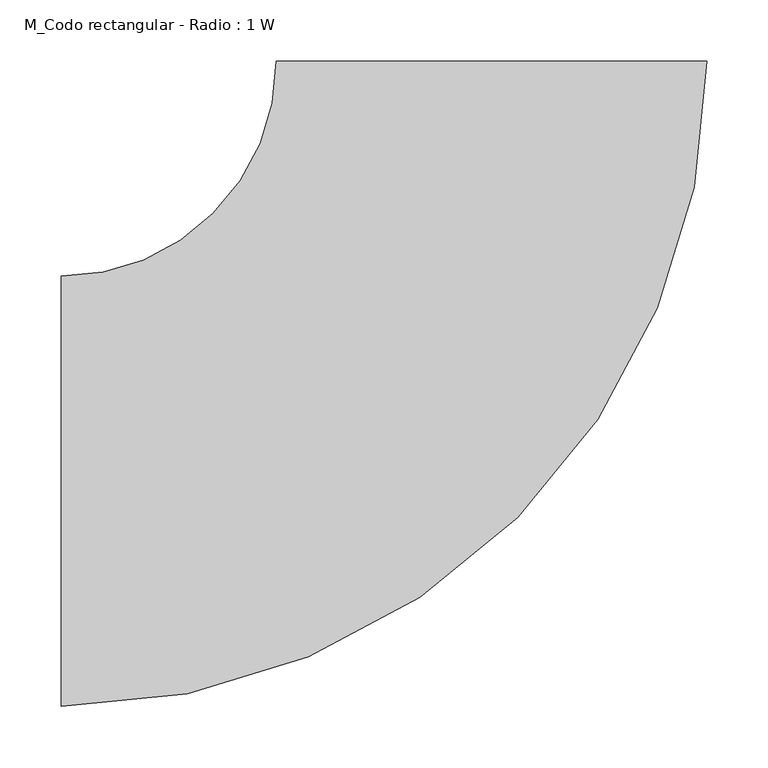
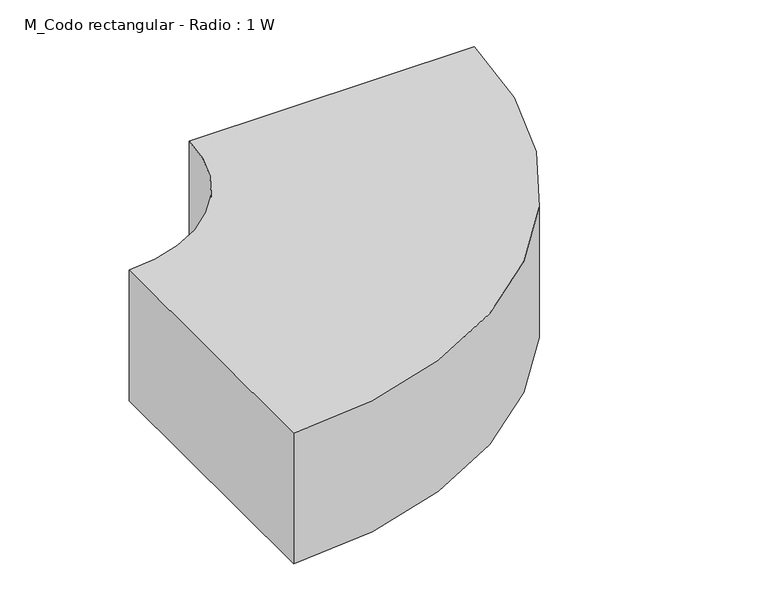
"""IFC4 building model written with IfcOpenShell, lengths in millimetres: duct fitting geometry, M_Codo rectangular - Radio : 1 W."""

import ifcopenshell
import ifcopenshell.guid

model = None  # the IFC model being written
_history = None  # IfcOwnerHistory: only IFC2X3 demands one
_inside = {}  # id of a spatial element -> (the spatial element, [elements in it])
_under = {}  # id of a project, library or spatial element -> (it, [spatial elements below it])
_declared = {}  # id of a project -> (the project, [libraries it declares])
_typed = {}  # id of a type object -> (the type object, [elements of that type])
_made_of = {}  # id of a material, layer set ... -> (it, [elements and type objects made of it])


def new_model(schema):
    """Start an empty IFC model of exactly this schema.

    Asked for "IFC4X3", IfcOpenShell would pick the latest addendum, in which some entities
    have other attributes; the version numbers below select the first issue.
    IFC2X3 requires an IfcOwnerHistory on every rooted entity: one is made here for all.
    """
    global model, _history
    if schema == "IFC4X3":
        model = ifcopenshell.file(schema_version=(4, 3, 0, 0))
    else:
        model = ifcopenshell.file(schema=schema)
    _inside.clear()
    _under.clear()
    _declared.clear()
    _typed.clear()
    _made_of.clear()
    _history = None
    if model.schema == "IFC2X3":
        org = make("IfcOrganization", Name="unknown")
        user = make(
            "IfcPersonAndOrganization",
            ThePerson=make("IfcPerson", FamilyName="unknown"),
            TheOrganization=org,
        )
        app = make(
            "IfcApplication",
            ApplicationDeveloper=org,
            Version="unknown",
            ApplicationFullName="unknown",
            ApplicationIdentifier="unknown",
        )
        _history = make(
            "IfcOwnerHistory",
            OwningUser=user,
            OwningApplication=app,
            ChangeAction="ADDED",
            CreationDate=0,
        )
    return model


def make(cls, **values):
    """One entity of the class cls with the attributes given. An attribute that is None is left unset."""
    return model.create_entity(
        cls, **{name: value for name, value in values.items() if value is not None}
    )


def rooted(cls, **values):
    """An entity with a GlobalId (a new one), such as an element, a storey or a relation."""
    return make(cls, GlobalId=ifcopenshell.guid.new(), OwnerHistory=_history, **values)


def si_unit(unit_type, name, prefix=None):
    """IfcSIUnit, for example si_unit("LENGTHUNIT", "METRE", prefix="MILLI")."""
    return make("IfcSIUnit", UnitType=unit_type, Prefix=prefix, Name=name)


def assignment(units):
    """IfcUnitAssignment: the units of a project."""
    return None if units is None else make("IfcUnitAssignment", Units=units)


def point(xyz):
    """IfcCartesianPoint."""
    return None if xyz is None else make("IfcCartesianPoint", Coordinates=xyz)


def direction(xyz):
    """IfcDirection."""
    return None if xyz is None else make("IfcDirection", DirectionRatios=xyz)


def frame(location, z_axis=None, x_axis=None):
    """IfcAxis2Placement3D, a coordinate frame: its origin and axes. An axis left out is left unset."""
    return make(
        "IfcAxis2Placement3D",
        Location=point(location),
        Axis=direction(z_axis),
        RefDirection=direction(x_axis),
    )


def frame_2d(location, x_axis=None):
    """IfcAxis2Placement2D, a coordinate frame in the plane: its origin and x axis."""
    return make(
        "IfcAxis2Placement2D", Location=point(location), RefDirection=direction(x_axis)
    )


def origin():
    """The frame at (0, 0, 0) with its axes left unset."""
    return frame((0.0, 0.0, 0.0))


def place(relative_to, where):
    """IfcLocalPlacement: puts the frame where relative to a parent placement (None: the world)."""
    return make(
        "IfcLocalPlacement", PlacementRelTo=relative_to, RelativePlacement=where
    )


def context(
    kind, dimensions, precision=None, world=None, true_north=None, identifier=None
):
    """IfcGeometricRepresentationContext, for example the 3D "Model" context."""
    return make(
        "IfcGeometricRepresentationContext",
        ContextIdentifier=identifier,
        ContextType=kind,
        CoordinateSpaceDimension=dimensions,
        Precision=precision,
        WorldCoordinateSystem=world,
        TrueNorth=true_north,
    )


def project(units=None, contexts=None):
    """IfcProject with its units and contexts."""
    return rooted(
        "IfcProject",
        Name="project",
        RepresentationContexts=contexts,
        UnitsInContext=assignment(units),
    )


def spatial(cls, under=None, at=None, **own):
    """A site, building, storey or space (cls), placed at a placement, below another one or the project."""
    s = rooted(cls, ObjectPlacement=at, **own)
    if under is not None:
        _under.setdefault(under.id(), (under, []))[1].append(s)
    return s


def polyline(points):
    """IfcPolyline through the points."""
    return make("IfcPolyline", Points=[point(p) for p in points])


def circle_curve(where, radius):
    """IfcCircle in the frame where."""
    return make("IfcCircle", Position=where, Radius=radius)


def trimmed(basis, trim1, trim2, sense, master):
    """IfcTrimmedCurve: the piece of a basis curve between two trims."""
    return make(
        "IfcTrimmedCurve",
        BasisCurve=basis,
        Trim1=trim1,
        Trim2=trim2,
        SenseAgreement=sense,
        MasterRepresentation=master,
    )


def segment(curve, same_sense, transition):
    """IfcCompositeCurveSegment."""
    return make(
        "IfcCompositeCurveSegment",
        Transition=transition,
        SameSense=same_sense,
        ParentCurve=curve,
    )


def composite_curve(segments, self_intersect=None):
    """IfcCompositeCurve: segments joined end to end."""
    return make("IfcCompositeCurve", Segments=segments, SelfIntersect=self_intersect)


def outline(outer, holes=None, kind="AREA"):
    """IfcArbitraryClosedProfileDef: a profile drawn as a closed curve; with holes, ...WithVoids."""
    if holes is None:
        return make("IfcArbitraryClosedProfileDef", ProfileType=kind, OuterCurve=outer)
    return make(
        "IfcArbitraryProfileDefWithVoids",
        ProfileType=kind,
        OuterCurve=outer,
        InnerCurves=holes,
    )


def extrude(swept, where, along, depth):
    """IfcExtrudedAreaSolid: the profile swept, set in the frame where, extruded along a direction by depth."""
    return make(
        "IfcExtrudedAreaSolid",
        SweptArea=swept,
        Position=where,
        ExtrudedDirection=direction(along),
        Depth=depth,
    )


def shape(context_of_items, identifier, shape_type, items):
    """IfcShapeRepresentation: the items that make up one representation, for example the "Body"."""
    return make(
        "IfcShapeRepresentation",
        ContextOfItems=context_of_items,
        RepresentationIdentifier=identifier,
        RepresentationType=shape_type,
        Items=items,
    )


def source(mapping_origin, context_of_items, identifier, shape_type, items):
    """IfcRepresentationMap: a shape defined once, which mapped items show again and again."""
    return make(
        "IfcRepresentationMap",
        MappingOrigin=mapping_origin,
        MappedRepresentation=shape(context_of_items, identifier, shape_type, items),
    )


def transform(
    local_origin,
    x_axis=None,
    y_axis=None,
    z_axis=None,
    scale=None,
    scale2=None,
    scale3=None,
    uniform=True,
):
    """IfcCartesianTransformationOperator3D, or its non-uniform kind. x_axis, y_axis, z_axis: its Axis1, 2, 3."""
    if uniform:
        return make(
            "IfcCartesianTransformationOperator3D",
            Axis1=direction(x_axis),
            Axis2=direction(y_axis),
            LocalOrigin=point(local_origin),
            Scale=scale,
            Axis3=direction(z_axis),
        )
    return make(
        "IfcCartesianTransformationOperator3DnonUniform",
        Axis1=direction(x_axis),
        Axis2=direction(y_axis),
        LocalOrigin=point(local_origin),
        Scale=scale,
        Axis3=direction(z_axis),
        Scale2=scale2,
        Scale3=scale3,
    )


def mapped(mapping_source, mapping_target):
    """IfcMappedItem: shows the shape of a source again, moved by a transform."""
    return make(
        "IfcMappedItem", MappingSource=mapping_source, MappingTarget=mapping_target
    )


def made_of(thing, what):
    """Note that an element or type object is made of a material, layer set ...; save() writes the relation."""
    if what is not None:
        _made_of.setdefault(what.id(), (what, []))[1].append(thing)
    return thing


def element(
    cls,
    number,
    at=None,
    inside=None,
    cuts=None,
    type_object=None,
    material=None,
    context=None,
    identifier="Body",
    shape_type=None,
    held_by="IfcProductDefinitionShape",
    body=None,
    shapes=None,
    **own,
):
    """One element of the class cls, such as IfcWall. Its Tag is "e" and its number.

    at: its placement. inside: the storey or other place that contains it. cuts: it is an
    opening in that element (IfcRelVoidsElement). A single representation is given by context,
    identifier, shape_type and body (its items); several are given by shapes. held_by: the class
    of the entity that holds the representations. save() writes the other relations.
    """
    e = rooted(cls, Tag="e%d" % number, ObjectPlacement=at, **own)
    if body is not None:
        shapes = [shape(context, identifier, shape_type, body)]
    if shapes is not None:
        e.Representation = make(held_by, Representations=shapes)
    if inside is not None:
        _inside.setdefault(inside.id(), (inside, []))[1].append(e)
    if cuts is not None:
        rooted(
            "IfcRelVoidsElement", RelatingBuildingElement=cuts, RelatedOpeningElement=e
        )
    if type_object is not None:
        _typed.setdefault(type_object.id(), (type_object, []))[1].append(e)
    return made_of(e, material)


def aggregate(whole, parts):
    """IfcRelAggregates: a whole, such as a stair, and the parts it consists of."""
    return rooted("IfcRelAggregates", RelatingObject=whole, RelatedObjects=parts)


def save(model, path):
    """Write the relations noted so far, then the file.

    IfcRelAggregates (storeys below a building ...), IfcRelContainedInSpatialStructure (elements
    in a storey), IfcRelDefinesByType, IfcRelAssociatesMaterial and IfcRelDeclares: one each for
    every whole, place, type object, material and project.
    """
    for whole, parts in _under.values():
        aggregate(whole, parts)
    for where, things in _inside.values():
        rooted(
            "IfcRelContainedInSpatialStructure",
            RelatedElements=things,
            RelatingStructure=where,
        )
    for kind, things in _typed.values():
        rooted("IfcRelDefinesByType", RelatedObjects=things, RelatingType=kind)
    for what, things in _made_of.values():
        rooted("IfcRelAssociatesMaterial", RelatedObjects=things, RelatingMaterial=what)
    for by, libraries in _declared.values():
        rooted("IfcRelDeclares", RelatingContext=by, RelatedDefinitions=libraries)
    model.write(path)


def m_codo_rectangular_radio_1_w_4117f4eb(model_context):
    return source(origin(), model_context, "Body", "SweptSolid", [
        extrude(outline(composite_curve([segment(trimmed(circle_curve(frame_2d((-350.0, 350.0)), 525.0), [point((175.0, 350.0))], [point((-350.0, -175.0))], False, "CARTESIAN"), True, "CONTINUOUS"), segment(polyline([(-350.0, -175.0), (-350.0, 175.0)]), True, "CONTINUOUS"), segment(trimmed(circle_curve(frame_2d((-350.0, 350.0)), 175.0), [point((-350.0, 175.0))], [point((-175.0, 350.0))], True, "CARTESIAN"), True, "CONTINUOUS"), segment(polyline([(-175.0, 350.0), (175.0, 350.0)]), True, "CONTINUOUS")], self_intersect=False)), frame((0.0, 0.0, -85.0), z_axis=(0.0, 0.0, 1.0), x_axis=(1.0, 0.0, 0.0)), (0.0, 0.0, 1.0), 170.0),
    ])


if __name__ == "__main__":
    model = new_model("IFC4")
    model_context = context("Model", 3, world=origin())
    ifc_project = project(units=[si_unit("LENGTHUNIT", "METRE", prefix="MILLI")], contexts=[model_context])
    site = spatial("IfcSite", under=ifc_project)
    building = spatial("IfcBuilding", under=site)
    placement = place(None, origin())
    m_codo_rectangular_radio_1_w_shape = m_codo_rectangular_radio_1_w_4117f4eb(model_context)
    element("IfcDuctFitting", 1, ObjectType="M_Codo rectangular - Radio : 1 W", at=placement, inside=building, context=model_context, shape_type="MappedRepresentation", body=[
        mapped(m_codo_rectangular_radio_1_w_shape, transform((0.0, 0.0, 0.0), x_axis=(1.0, 0.0, 0.0), y_axis=(0.0, 1.0, 0.0), z_axis=(0.0, 0.0, 1.0))),
    ])
    save(model, "model.ifc")
